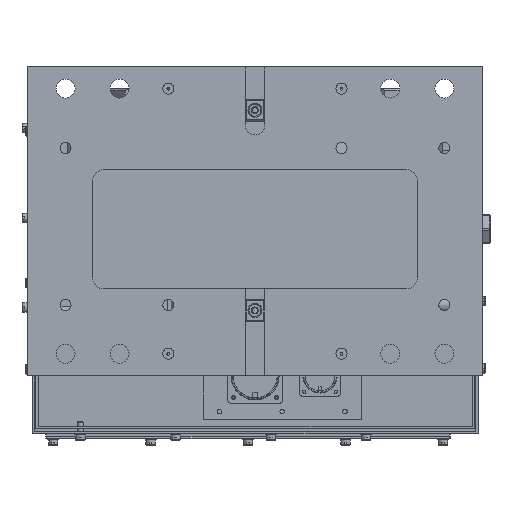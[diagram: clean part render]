
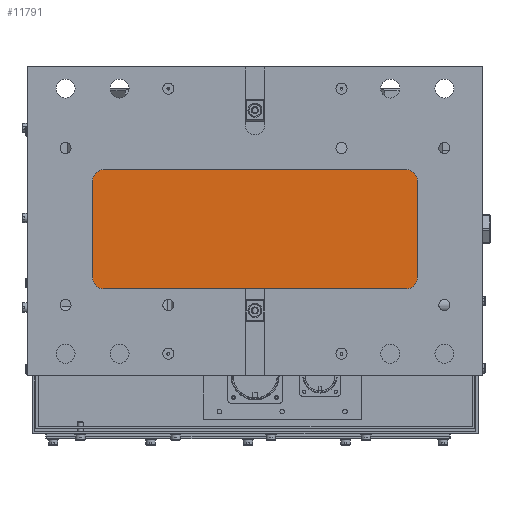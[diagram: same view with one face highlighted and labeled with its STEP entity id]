
A CAD part, front view. The second image highlights one B-rep face of the part: STEP entity #11791.
In plain terms, the highlighted planar face has unit normal (0, -1, 0).
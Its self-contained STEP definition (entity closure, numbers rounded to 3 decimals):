
#523 = DIRECTION ( 'NONE',  ( 0., -1., 0. ) ) ;
#683 = DIRECTION ( 'NONE',  ( 0., -1., 0. ) ) ;
#2272 = ORIENTED_EDGE ( 'NONE', *, *, #36652, .T. ) ;
#3027 = CIRCLE ( 'NONE', #21544, 10. ) ;
#3612 = EDGE_CURVE ( 'NONE', #13315, #40230, #22976, .T. ) ;
#3708 = VECTOR ( 'NONE', #46509, 1000. ) ;
#3992 = AXIS2_PLACEMENT_3D ( 'NONE', #13230, #8706, #32101 ) ;
#4009 = CARTESIAN_POINT ( 'NONE',  ( 140., -195., 145. ) ) ;
#4114 = VERTEX_POINT ( 'NONE', #4009 ) ;
#4235 = VERTEX_POINT ( 'NONE', #32196 ) ;
#5647 = DIRECTION ( 'NONE',  ( 0., -1., 0. ) ) ;
#5659 = CARTESIAN_POINT ( 'NONE',  ( 0., -195., 0. ) ) ;
#5913 = FACE_OUTER_BOUND ( 'NONE', #22473, .T. ) ;
#8083 = ORIENTED_EDGE ( 'NONE', *, *, #29375, .F. ) ;
#8706 = DIRECTION ( 'NONE',  ( 0., -1., 0. ) ) ;
#8738 = DIRECTION ( 'NONE',  ( 1., 0., 0. ) ) ;
#8776 = LINE ( 'NONE', #42504, #3708 ) ;
#8938 = PLANE ( 'NONE',  #13087 ) ;
#9100 = VERTEX_POINT ( 'NONE', #24369 ) ;
#11791 = ADVANCED_FACE ( 'NONE', ( #5913 ), #8938, .T. ) ;
#11880 = CARTESIAN_POINT ( 'NONE',  ( 140., -195., 135. ) ) ;
#12552 = CARTESIAN_POINT ( 'NONE',  ( -150., -195., 0. ) ) ;
#12895 = EDGE_CURVE ( 'NONE', #19157, #21259, #47250, .T. ) ;
#13046 = CARTESIAN_POINT ( 'NONE',  ( -150., -195., 135. ) ) ;
#13087 = AXIS2_PLACEMENT_3D ( 'NONE', #5659, #35869, #40386 ) ;
#13230 = CARTESIAN_POINT ( 'NONE',  ( -140., -195., 45. ) ) ;
#13315 = VERTEX_POINT ( 'NONE', #30015 ) ;
#13861 = CIRCLE ( 'NONE', #41987, 10. ) ;
#15724 = EDGE_CURVE ( 'NONE', #4235, #4114, #3027, .T. ) ;
#19057 = VECTOR ( 'NONE', #8738, 1000. ) ;
#19157 = VERTEX_POINT ( 'NONE', #37767 ) ;
#19749 = EDGE_CURVE ( 'NONE', #31830, #21259, #20634, .T. ) ;
#19912 = DIRECTION ( 'NONE',  ( 1., 0., 0. ) ) ;
#20048 = CARTESIAN_POINT ( 'NONE',  ( 0., -195., 145. ) ) ;
#20216 = VECTOR ( 'NONE', #20826, 1000. ) ;
#20634 = CIRCLE ( 'NONE', #37517, 10. ) ;
#20826 = DIRECTION ( 'NONE',  ( 0., 0., 1. ) ) ;
#21259 = VERTEX_POINT ( 'NONE', #13046 ) ;
#21544 = AXIS2_PLACEMENT_3D ( 'NONE', #11880, #523, #19912 ) ;
#22250 = CARTESIAN_POINT ( 'NONE',  ( 0., -195., 35. ) ) ;
#22473 = EDGE_LOOP ( 'NONE', ( #8083, #26797, #28827, #2272, #25412, #36231, #41899, #26594 ) ) ;
#22976 = LINE ( 'NONE', #22250, #30099 ) ;
#24369 = CARTESIAN_POINT ( 'NONE',  ( 150., -195., 45. ) ) ;
#25412 = ORIENTED_EDGE ( 'NONE', *, *, #3612, .T. ) ;
#26594 = ORIENTED_EDGE ( 'NONE', *, *, #15724, .T. ) ;
#26797 = ORIENTED_EDGE ( 'NONE', *, *, #19749, .T. ) ;
#28630 = EDGE_CURVE ( 'NONE', #9100, #4235, #8776, .T. ) ;
#28827 = ORIENTED_EDGE ( 'NONE', *, *, #12895, .F. ) ;
#29375 = EDGE_CURVE ( 'NONE', #31830, #4114, #40604, .T. ) ;
#30015 = CARTESIAN_POINT ( 'NONE',  ( -140., -195., 35. ) ) ;
#30099 = VECTOR ( 'NONE', #38059, 1000. ) ;
#30540 = CIRCLE ( 'NONE', #3992, 10. ) ;
#31830 = VERTEX_POINT ( 'NONE', #36408 ) ;
#32101 = DIRECTION ( 'NONE',  ( 1., 0., 0. ) ) ;
#32196 = CARTESIAN_POINT ( 'NONE',  ( 150., -195., 135. ) ) ;
#32339 = EDGE_CURVE ( 'NONE', #40230, #9100, #13861, .T. ) ;
#32592 = DIRECTION ( 'NONE',  ( 1., 0., 0. ) ) ;
#33979 = CARTESIAN_POINT ( 'NONE',  ( 140., -195., 35. ) ) ;
#35187 = CARTESIAN_POINT ( 'NONE',  ( -140., -195., 135. ) ) ;
#35869 = DIRECTION ( 'NONE',  ( 0., -1., 0. ) ) ;
#36231 = ORIENTED_EDGE ( 'NONE', *, *, #32339, .T. ) ;
#36408 = CARTESIAN_POINT ( 'NONE',  ( -140., -195., 145. ) ) ;
#36652 = EDGE_CURVE ( 'NONE', #19157, #13315, #30540, .T. ) ;
#37517 = AXIS2_PLACEMENT_3D ( 'NONE', #35187, #683, #45996 ) ;
#37767 = CARTESIAN_POINT ( 'NONE',  ( -150., -195., 45. ) ) ;
#38059 = DIRECTION ( 'NONE',  ( 1., 0., 0. ) ) ;
#40230 = VERTEX_POINT ( 'NONE', #33979 ) ;
#40386 = DIRECTION ( 'NONE',  ( 1., 0., 0. ) ) ;
#40604 = LINE ( 'NONE', #20048, #19057 ) ;
#40874 = CARTESIAN_POINT ( 'NONE',  ( 140., -195., 45. ) ) ;
#41899 = ORIENTED_EDGE ( 'NONE', *, *, #28630, .T. ) ;
#41987 = AXIS2_PLACEMENT_3D ( 'NONE', #40874, #5647, #32592 ) ;
#42504 = CARTESIAN_POINT ( 'NONE',  ( 150., -195., 0. ) ) ;
#45996 = DIRECTION ( 'NONE',  ( 1., 0., 0. ) ) ;
#46509 = DIRECTION ( 'NONE',  ( 0., 0., 1. ) ) ;
#47250 = LINE ( 'NONE', #12552, #20216 ) ;
